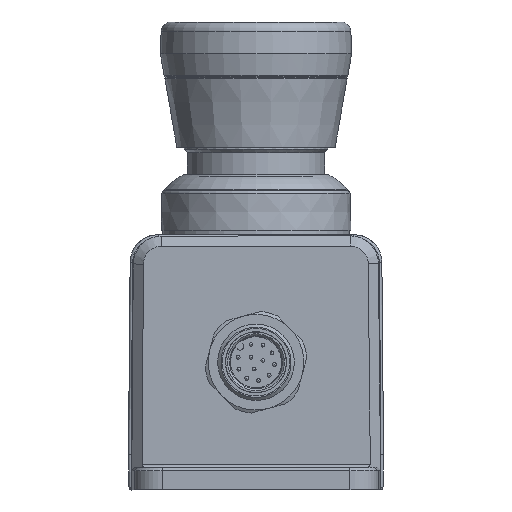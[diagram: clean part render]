
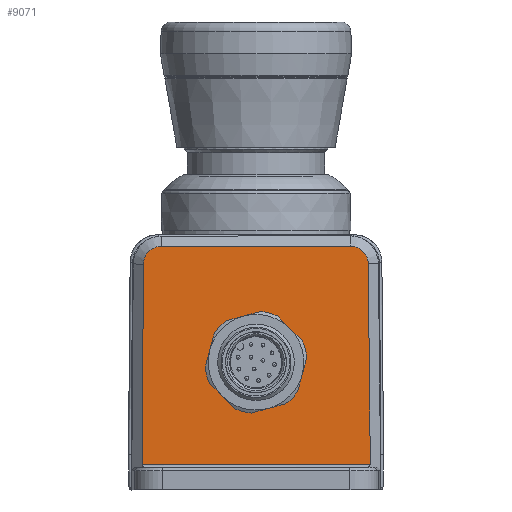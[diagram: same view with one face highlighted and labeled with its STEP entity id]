
A CAD part, front view. The second image highlights one B-rep face of the part: STEP entity #9071.
In plain terms, the highlighted planar face has unit normal (0, -1, 0).
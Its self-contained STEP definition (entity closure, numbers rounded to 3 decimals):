
#538=FACE_BOUND('',#1750,.T.);
#697=PLANE('',#10165);
#1161=FACE_OUTER_BOUND('',#1749,.T.);
#1749=EDGE_LOOP('',(#7866,#7867,#7868,#7869,#7870,#7871));
#1750=EDGE_LOOP('',(#7872));
#2250=LINE('',#17560,#2716);
#2282=LINE('',#17642,#2748);
#2285=LINE('',#17653,#2751);
#2288=LINE('',#17662,#2754);
#2716=VECTOR('',#12495,10.);
#2748=VECTOR('',#12571,10.);
#2751=VECTOR('',#12582,10.);
#2754=VECTOR('',#12593,10.);
#3288=CIRCLE('',#10116,6.05);
#3299=CIRCLE('',#10144,2.8);
#3301=CIRCLE('',#10148,2.8);
#4118=VERTEX_POINT('',#17549);
#4119=VERTEX_POINT('',#17553);
#4122=VERTEX_POINT('',#17558);
#4150=VERTEX_POINT('',#17640);
#4152=VERTEX_POINT('',#17646);
#4154=VERTEX_POINT('',#17651);
#4156=VERTEX_POINT('',#17658);
#5364=EDGE_CURVE('',#4118,#4118,#3288,.T.);
#5368=EDGE_CURVE('',#4122,#4119,#2250,.T.);
#5409=EDGE_CURVE('',#4150,#4122,#2282,.T.);
#5412=EDGE_CURVE('',#4152,#4150,#3299,.T.);
#5414=EDGE_CURVE('',#4154,#4152,#2285,.T.);
#5418=EDGE_CURVE('',#4156,#4154,#3301,.T.);
#5419=EDGE_CURVE('',#4119,#4156,#2288,.T.);
#7866=ORIENTED_EDGE('',*,*,#5368,.F.);
#7867=ORIENTED_EDGE('',*,*,#5409,.F.);
#7868=ORIENTED_EDGE('',*,*,#5412,.F.);
#7869=ORIENTED_EDGE('',*,*,#5414,.F.);
#7870=ORIENTED_EDGE('',*,*,#5418,.F.);
#7871=ORIENTED_EDGE('',*,*,#5419,.F.);
#7872=ORIENTED_EDGE('',*,*,#5364,.T.);
#9071=ADVANCED_FACE('',(#1161,#538),#697,.T.);
#10116=AXIS2_PLACEMENT_3D('',#17551,#12486,#12487);
#10144=AXIS2_PLACEMENT_3D('',#17648,#12577,#12578);
#10148=AXIS2_PLACEMENT_3D('',#17660,#12589,#12590);
#10165=AXIS2_PLACEMENT_3D('',#17703,#12640,#12641);
#12486=DIRECTION('center_axis',(0.,1.,0.));
#12487=DIRECTION('ref_axis',(-0.966,0.,0.259));
#12495=DIRECTION('',(-1.,0.,0.));
#12571=DIRECTION('',(0.009,0.,-1.));
#12577=DIRECTION('center_axis',(0.,1.,0.));
#12578=DIRECTION('ref_axis',(0.704,0.,0.71));
#12582=DIRECTION('',(1.,0.,0.));
#12589=DIRECTION('center_axis',(0.,1.,0.));
#12590=DIRECTION('ref_axis',(-0.704,0.,0.71));
#12593=DIRECTION('',(0.009,0.,1.));
#12640=DIRECTION('center_axis',(0.,-1.,0.));
#12641=DIRECTION('ref_axis',(-1.,0.,0.));
#17549=CARTESIAN_POINT('',(5.844,-7.,-1.566));
#17551=CARTESIAN_POINT('Origin',(0.,-7.,0.));
#17553=CARTESIAN_POINT('',(-17.896,-7.,-16.));
#17558=CARTESIAN_POINT('',(17.896,-7.,-16.));
#17560=CARTESIAN_POINT('',(9.75,-7.,-16.));
#17640=CARTESIAN_POINT('',(17.621,-7.,15.424));
#17642=CARTESIAN_POINT('',(17.828,-7.,-8.27));
#17646=CARTESIAN_POINT('',(14.821,-7.,18.2));
#17648=CARTESIAN_POINT('Origin',(14.821,-7.,15.4));
#17651=CARTESIAN_POINT('',(-14.821,-7.,18.2));
#17653=CARTESIAN_POINT('',(9.592,-7.,18.2));
#17658=CARTESIAN_POINT('',(-17.621,-7.,15.424));
#17660=CARTESIAN_POINT('Origin',(-14.821,-7.,15.4));
#17662=CARTESIAN_POINT('',(-17.67,-7.,9.88));
#17703=CARTESIAN_POINT('Origin',(0.,-7.,-0.18));
